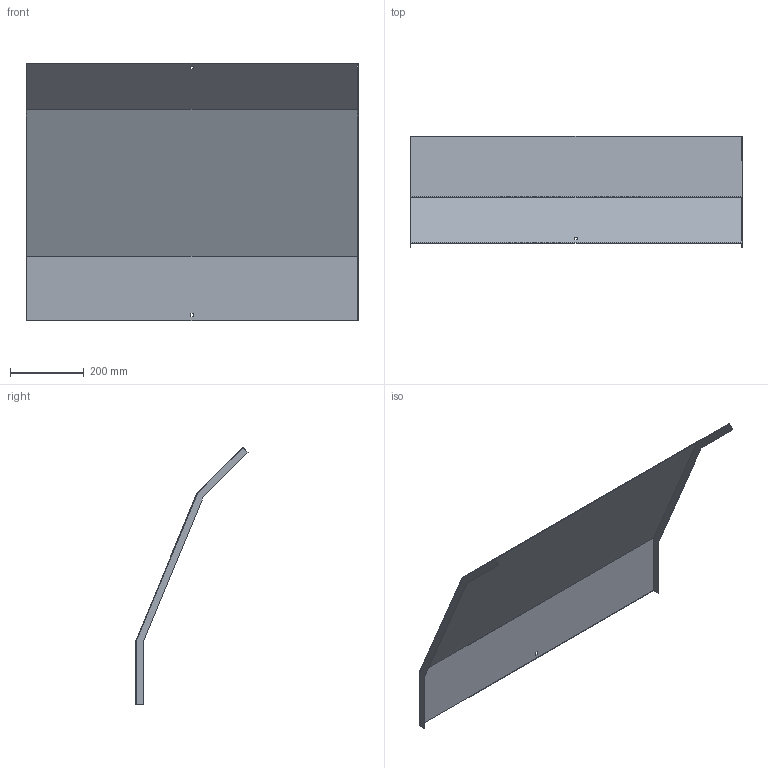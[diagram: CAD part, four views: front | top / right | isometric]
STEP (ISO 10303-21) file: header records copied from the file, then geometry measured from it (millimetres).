
FILE_DESCRIPTION (( 'STEP AP214' ), '1' );
FILE_NAME ('34N5J900.step', '2025-02-21T10:34:04', ( '' ), ( '' ), 'SwSTEP 2.0', 'SolidWorks 2023', '' );
FILE_SCHEMA (( 'AUTOMOTIVE_DESIGN' ));
Length unit declared in the file: millimetre
Products named in the file (1): 34N5J900
Bounding box: 903 x 304.65 x 701.34 mm (x, y, z)
Volume: 1106678.8 mm3; surface area: 1480796.6 mm2
Topology: 1 solids, 1 shells, 26 faces, 72 edges, 48 vertices
Faces by surface type: plane 26
Entity records: 847 total; most frequent: CARTESIAN_POINT 147, ORIENTED_EDGE 144, DIRECTION 126, VECTOR 72, EDGE_CURVE 72, LINE 72, VERTEX_POINT 48, EDGE_LOOP 30
